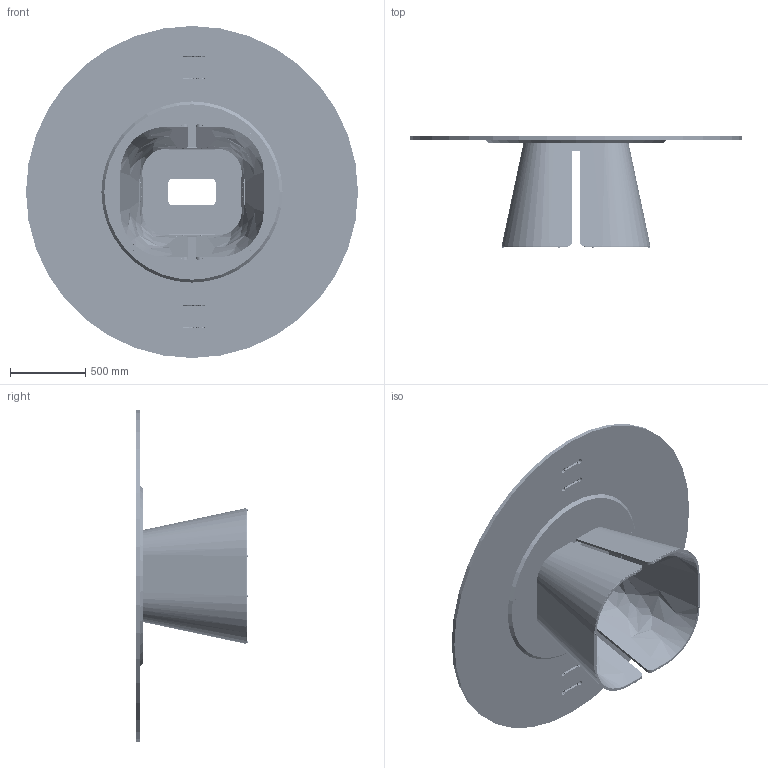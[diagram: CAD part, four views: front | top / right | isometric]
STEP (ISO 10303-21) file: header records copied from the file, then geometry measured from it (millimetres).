
FILE_DESCRIPTION (( 'STEP AP214' ), '1' );
FILE_NAME ('Alta Ø2200mm Boardroom Table.STEP', '2024-05-14T13:13:30', ( '' ), ( '' ), 'SwSTEP 2.0', 'SolidWorks 2023', '' );
FILE_SCHEMA (( 'AUTOMOTIVE_DESIGN' ));
Length unit declared in the file: millimetre
Products named in the file (23): 3351032_3351032; 747 1111_1120_747 1112; SSBF-M8-16-10_9; 747 0006_0007_747 0006; 262_96_222; 747 0001_747 0001; socket countersunk head screw_bsi-Precision5820-1-2_1901310; 747 0017_0029_747 0018; Alta Ø2200mm Boardroom Table; 747 1003_747 1003; 3351030_3351030; countersunk flat head cross recess screw_bsi_11_BS EN ISO 7046-1 - M5 x 6 - Z - 6N; socket countersunk head screw_bsi-Craig-SurfacePro_1901150; socket countersunk head screw_bsi-Craig-SurfacePro_2691180; 747 0004+0032_747 0004; 3351000_3351000; 747 1011_1014_747 1011; 747 1100_1110_747 1100; LOW011_LOW011; 747 0100_0110_747 0100; 711_0413; 747 1021_1030_747 1022; 747 1001_747 1001
Assembly tree (96 placements, depth 6):
  Alta Ø2200mm Boardroom Table
    747 1100_1110_747 1100
      747 1011_1014_747 1011
        747 1003_747 1003  x2
          747 1001_747 1001
            747 0001_747 0001
            3351032_3351032  x8
            3351000_3351000  x5
          747 0100_0110_747 0100
          LOW011_LOW011
          socket countersunk head screw_bsi-Craig-SurfacePro_1901150
        747 0004+0032_747 0004
        SSBF-M8-16-10_9  x16
      747 0006_0007_747 0006
      socket countersunk head screw_bsi-Craig-SurfacePro_2691180  x8
    747 1111_1120_747 1112
      747 1021_1030_747 1022  x2
        747 0017_0029_747 0018
        3351030_3351030
      262_96_222  x11
    711_0413  x2
    socket countersunk head screw_bsi-Precision5820-1-2_1901310  x14
    countersunk flat head cross recess screw_bsi_11_BS EN ISO 7046-1 - M5 x 6 - Z - 6N  x4
Bounding box: 2200 x 739 x 2200 mm (x, y, z)
Volume: 144945617 mm3; surface area: 14960354.3 mm2
Topology: 171 solids, 171 shells, 6381 faces, 15355 edges, 9402 vertices
Faces by surface type: cylinder 2451, plane 2243, cone 1419, bspline 205, torus 52, sphere 11
Full cylindrical faces by diameter (mm): 4.2 x4, 5 x40, 5.5 x14, 6 x1692, 7 x28, 8 x274, 9.3 x4, 9.43 x10, 10 x12, 11 x32, 11.34 x22, 12 x26, 13.2 x16, 15 x19
Entity records: 41690 total; most frequent: CARTESIAN_POINT 22425, DIRECTION 4011, ORIENTED_EDGE 3238, EDGE_CURVE 1619, AXIS2_PLACEMENT_3D 1555, EDGE_LOOP 1277, VERTEX_POINT 1184, FACE_OUTER_BOUND 951
